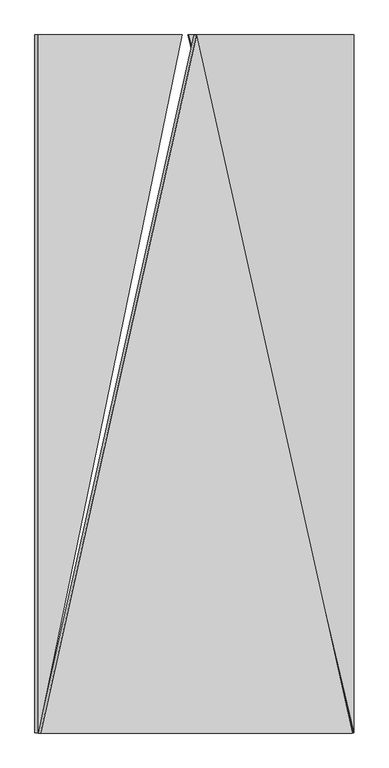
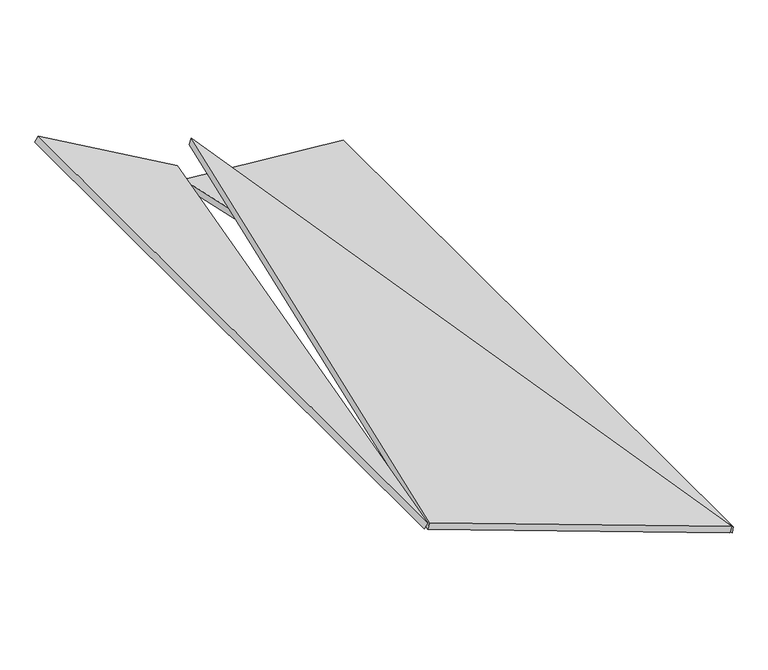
"""IFC4 building model written with IfcOpenShell, lengths in millimetres: proxy geometry, panel sufitowy 6 : panel sufitowy 6."""

from ifc_helpers import new_model, si_unit, frame, origin, place, context, project, spatial, polyline, outline, extrude, source, transform, mapped, element, save


def generic_models_5f1f3cf9(model_context):
    return source(origin(), model_context, "Body", "SweptSolid", [
        extrude(outline(polyline([(-900.9098917, -1e-07), (1006.1909889, 962.7191946), (1235.4098448, 0.0), (-900.9098917, -1e-07)])), frame((511.5037401, 1457.4151922, 997.2071053), z_axis=(0.34202014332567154, 0.0, 0.9396926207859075), x_axis=(-0.2176521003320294, -0.9728062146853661, 0.07921888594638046)), (0.0, 0.0, 1.0), 20.0),
        extrude(outline(polyline([(-127.5, 0.0), (-127.5, -2079.0), (-622.4999999, 0.0), (-127.5, 0.0)])), frame((1308.8855864, 2335.0, 742.101106), z_axis=(0.08715574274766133, 0.0, 0.9961946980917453), x_axis=(0.9961946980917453, 0.0, -0.08715574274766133)), (0.0, 0.0, 1.0), 20.0),
        extrude(outline(polyline([(-127.4999999, 0.0), (-622.5, 0.0), (-127.4999999, 2079.0), (-127.4999999, 0.0)])), frame((122.3629765, 2335.0, 1162.4038079), z_axis=(0.5000000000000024, 0.0, 0.8660254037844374), x_axis=(-0.8660254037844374, 0.0, 0.5000000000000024)), (0.0, 0.0, 1.0), 20.0),
    ])


if __name__ == "__main__":
    model = new_model("IFC4")
    model_context = context("Model", 3, world=origin())
    ifc_project = project(units=[si_unit("LENGTHUNIT", "METRE", prefix="MILLI")], contexts=[model_context])
    site = spatial("IfcSite", under=ifc_project)
    building = spatial("IfcBuilding", under=site)
    placement = place(None, origin())
    generic_models_shape = generic_models_5f1f3cf9(model_context)
    element("IfcBuildingElementProxy", 1, Name="panel sufitowy 6 : panel sufitowy 6", ObjectType="panel sufitowy 6 : panel sufitowy 6", at=placement, inside=building, context=model_context, shape_type="MappedRepresentation", body=[
        mapped(generic_models_shape, transform((0.0, 0.0, 0.0), x_axis=(1.0, 0.0, 0.0), y_axis=(0.0, 1.0, 0.0), z_axis=(0.0, 0.0, 1.0))),
    ])
    save(model, "model.ifc")
